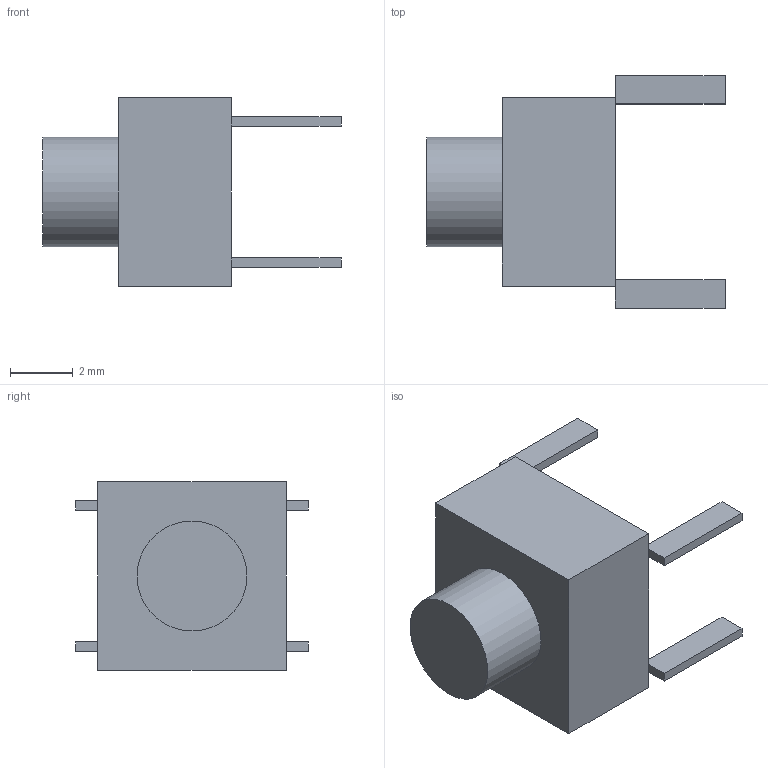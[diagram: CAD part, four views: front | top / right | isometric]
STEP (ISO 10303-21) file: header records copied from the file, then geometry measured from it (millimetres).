
FILE_DESCRIPTION(('Open CASCADE Model'),'2;1');
FILE_NAME('Open CASCADE Shape Model','2026-09-15T14:24:32',('Author'),( 'Open CASCADE'),'Open CASCADE STEP processor 7.7','Open CASCADE 7.7' ,'Unknown');
FILE_SCHEMA(('AUTOMOTIVE_DESIGN { 1 0 10303 214 1 1 1 1 }'));
Length unit declared in the file: millimetre
Products named in the file (7): Open CASCADE STEP translator 7.7 51; Open CASCADE STEP translator 7.7 51.1; Open CASCADE STEP translator 7.7 51.2; Open CASCADE STEP translator 7.7 51.3; Open CASCADE STEP translator 7.7 51.4; Open CASCADE STEP translator 7.7 51.5; Open CASCADE STEP translator 7.7 51.6
Assembly tree (6 placements, depth 2):
  Open CASCADE STEP translator 7.7 51
    Open CASCADE STEP translator 7.7 51.1
    Open CASCADE STEP translator 7.7 51.2
    Open CASCADE STEP translator 7.7 51.3
    Open CASCADE STEP translator 7.7 51.4
    Open CASCADE STEP translator 7.7 51.5
    Open CASCADE STEP translator 7.7 51.6
Bounding box: 9.5 x 7.4 x 6 mm (x, y, z)
Volume: 156.5 mm3; surface area: 239.8 mm2
Topology: 6 solids, 6 shells, 33 faces, 63 edges, 42 vertices
Faces by surface type: plane 32, cylinder 1
Full cylindrical faces by diameter (mm): 3.5 x1
Entity records: 1746 total; most frequent: CARTESIAN_POINT 271, DIRECTION 271, LINE 185, VECTOR 185, ORIENTED_EDGE 126, PCURVE 126, DEFINITIONAL_REPRESENTATION 126, EDGE_CURVE 63
